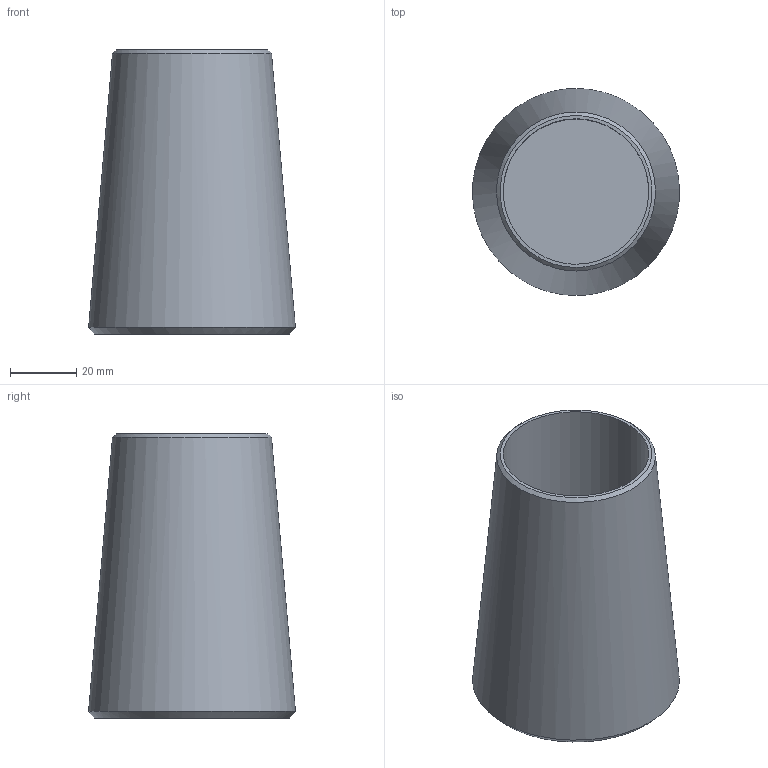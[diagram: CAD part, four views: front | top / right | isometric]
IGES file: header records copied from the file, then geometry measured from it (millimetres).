
Global section: file name: 520-042-KMU; native system: Autodesk Inventor 2016; preprocessor: unknown; author: BAYR; date: 20200618.122805; units: millimetre
Bounding box: 62.62 x 62.65 x 86 mm (x, y, z)
Volume: 109897.7 mm3; surface area: 28621.3 mm2
Topology: 1 solids, 1 shells, 7 faces, 14 edges, 10 vertices
Faces by surface type: bspline 7
